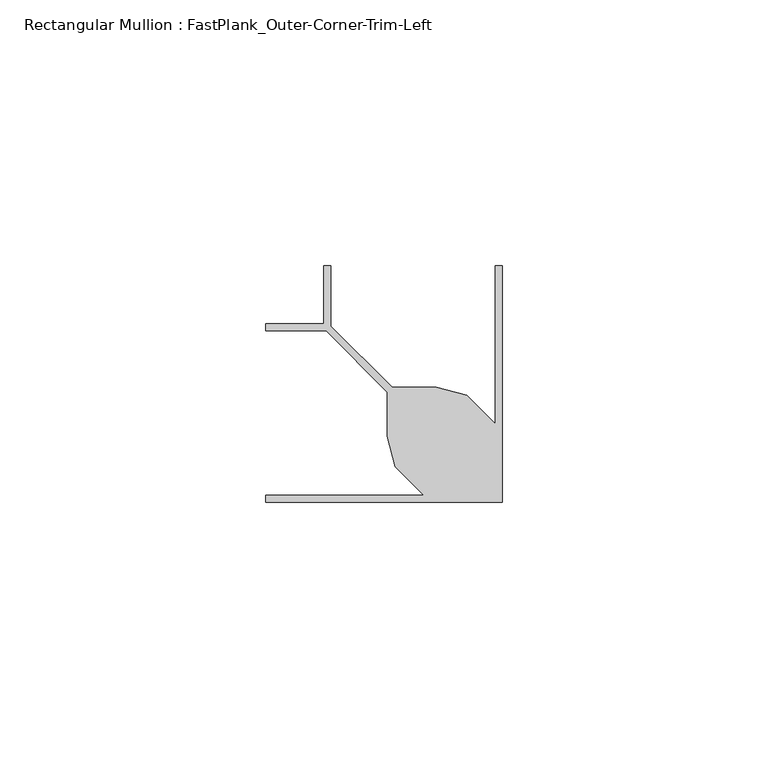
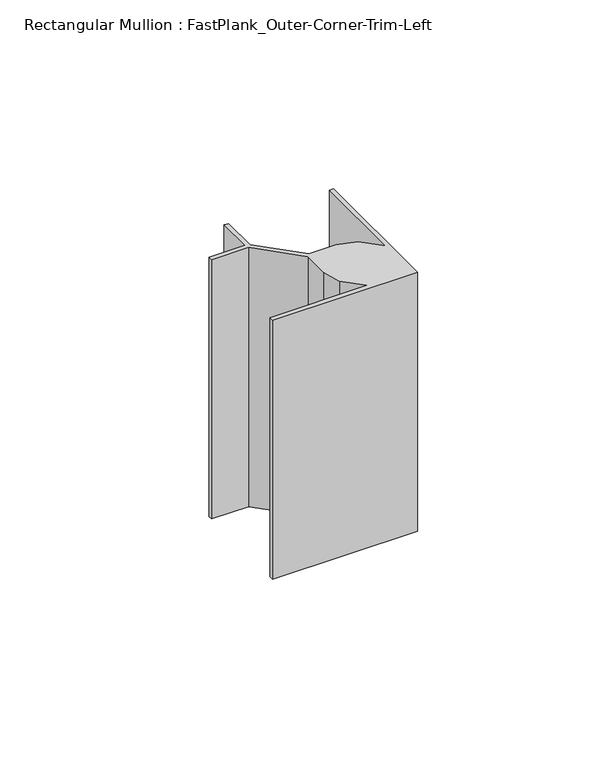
"""IFC4 building model written with IfcOpenShell, lengths in millimetres: member geometry, Rectangular Mullion : FastPlank_Outer-Corner-Trim-Left."""

from ifc_helpers import new_model, si_unit, frame, origin, place, context, project, spatial, polyline, outline, extrude, source, transform, mapped, element, save


def rectangular_mullion_fastplank_outer_corner_trim_left_649a0248(model_context):
    return source(origin(), model_context, "Body", "SweptSolid", [
        extrude(outline(polyline([(0.0, 22.7926044), (0.0, -21.6481418), (-44.4407461, -21.6481418), (-44.4407461, -20.3481444), (-14.7093055, -20.3481444), (-20.0837776, -14.9736723), (-21.6227418, -9.2301797), (-21.6227418, -0.944637), (-33.1191726, 10.5517938), (-44.4407461, 10.5517938), (-44.4407461, 11.8517912), (-33.499933, 11.8517912), (-33.499933, 22.7926044), (-32.1999356, 22.7926044), (-32.1999356, 11.4710308), (-20.7035048, -0.0254), (-12.417962, -0.0254), (-6.6744694, -1.5643642), (-1.2999974, -6.9388362), (-1.2999974, 22.7926044), (0.0, 22.7926044)])), frame((0.0, 0.0, -83.8500189), z_axis=(0.0, 0.0, 1.0), x_axis=(1.0, 0.0, 0.0)), (0.0, 0.0, 1.0), 83.8500189),
    ])


if __name__ == "__main__":
    model = new_model("IFC4")
    model_context = context("Model", 3, world=origin())
    ifc_project = project(units=[si_unit("LENGTHUNIT", "METRE", prefix="MILLI")], contexts=[model_context])
    site = spatial("IfcSite", under=ifc_project)
    building = spatial("IfcBuilding", under=site)
    placement = place(None, origin())
    rectangular_mullion_fastplank_outer_corner_trim_left_shape = rectangular_mullion_fastplank_outer_corner_trim_left_649a0248(model_context)
    element("IfcMember", 1, ObjectType="Rectangular Mullion : FastPlank_Outer-Corner-Trim-Left", at=placement, inside=building, context=model_context, shape_type="MappedRepresentation", body=[
        mapped(rectangular_mullion_fastplank_outer_corner_trim_left_shape, transform((0.0, 0.0, 0.0), x_axis=(1.0, 0.0, 0.0), y_axis=(0.0, 1.0, 0.0), z_axis=(0.0, 0.0, 1.0))),
    ])
    save(model, "model.ifc")
